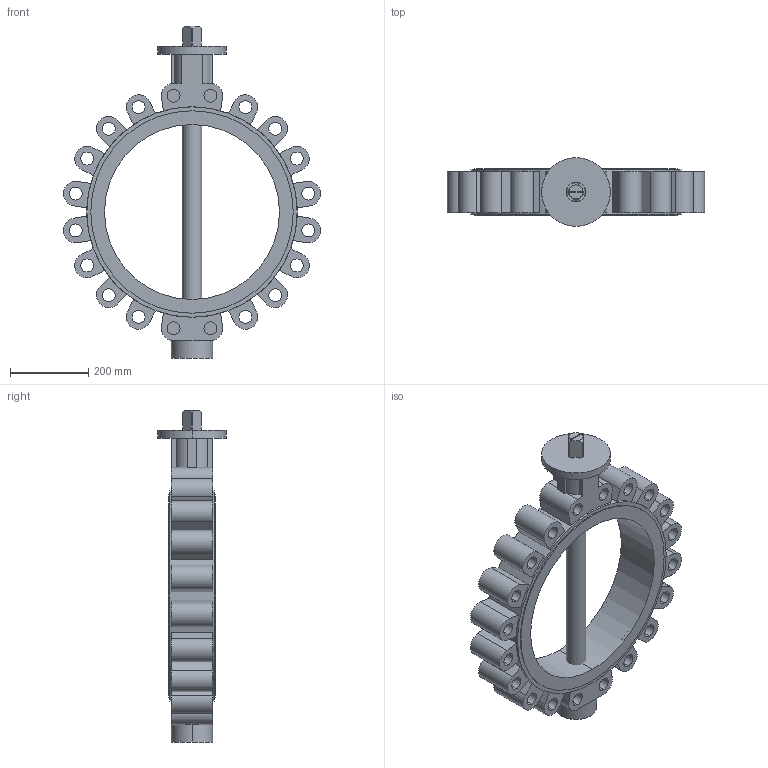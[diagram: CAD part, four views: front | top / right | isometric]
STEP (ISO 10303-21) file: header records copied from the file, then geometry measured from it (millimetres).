
FILE_DESCRIPTION (( 'STEP AP203' ), '1' );
FILE_NAME ('2502 LT型中线衬胶带销 无头蝶阀 DN450 PN25 CD0309397.STEP', '2026-05-29T07:25:39', ( '' ), ( '' ), 'SwSTEP 2.0', 'SolidWorks 2021', '' );
FILE_SCHEMA (( 'CONFIG_CONTROL_DESIGN' ));
Length unit declared in the file: millimetre
Products named in the file (4): GALA-D450-04AC-00; 中线通轴带销衬胶蝶阀阀轴-DN450-GALA-D450-03ZC-01; GALA-D450-01LC25-00; 2502 LT型中线衬胶带销 无头蝶阀 DN450 PN25 CD0309397
Assembly tree (3 placements, depth 2):
  2502 LT型中线衬胶带销 无头蝶阀 DN450 PN25 CD0309397
    GALA-D450-01LC25-00
    GALA-D450-04AC-00
    中线通轴带销衬胶蝶阀阀轴-DN450-GALA-D450-03ZC-01
Bounding box: 655.6 x 175 x 846 mm (x, y, z)
Volume: 22730788.2 mm3; surface area: 1694961.9 mm2
Topology: 3 solids, 3 shells, 236 faces, 586 edges, 382 vertices
Faces by surface type: plane 120, cylinder 103, cone 11, torus 2
Entity records: 7720 total; most frequent: CARTESIAN_POINT 1382, DIRECTION 1326, ORIENTED_EDGE 1172, EDGE_CURVE 586, AXIS2_PLACEMENT_3D 514, VERTEX_POINT 382, LINE 298, EDGE_LOOP 298
